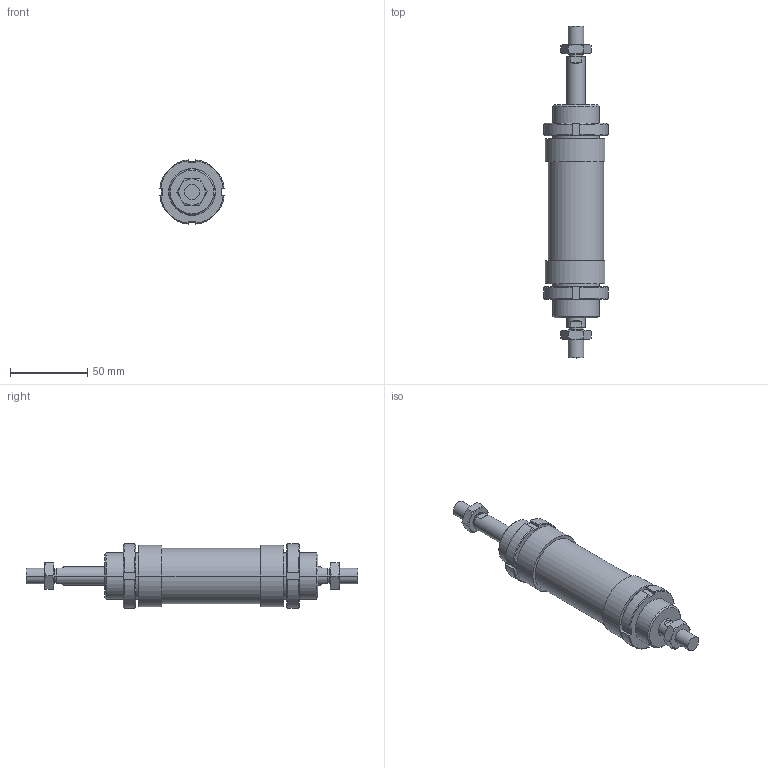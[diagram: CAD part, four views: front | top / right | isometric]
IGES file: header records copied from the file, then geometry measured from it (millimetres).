
Global section: file name: No Iges File Name specified; native system: AutoDesk Inventor R6.0; preprocessor: AutoDesk Inventor Iges Exporter R6.0; author: No Author specified; organization: No Organization specified; date: 20030403.072611; units: millimetre
Bounding box: 41.7 x 215 x 41.7 mm (x, y, z)
Volume: 152872.9 mm3; surface area: 39604.1 mm2
Topology: 6 solids, 6 shells, 182 faces, 424 edges, 264 vertices
Faces by surface type: plane 66, cone 52, bspline 30, cylinder 28, revolution 6
